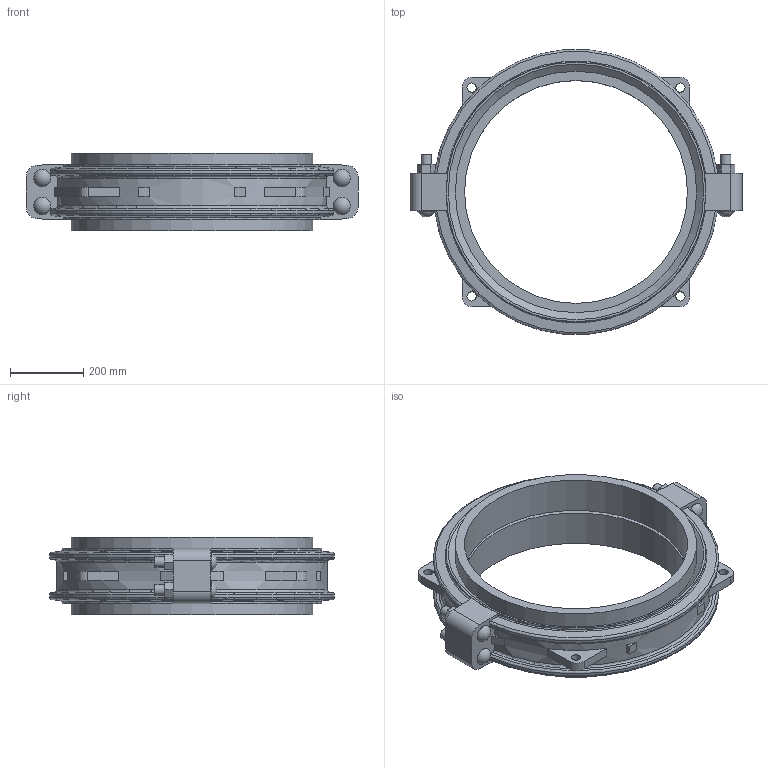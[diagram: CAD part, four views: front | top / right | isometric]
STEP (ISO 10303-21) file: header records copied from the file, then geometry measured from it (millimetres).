
FILE_DESCRIPTION(/* description */ ('VIC COUPLING FLEX STYLE W77 AGS VIC-RING ','CAx-IF Rec.Pracs.---Representation and Presentation of Product Manufacturing Information (PMI)---4.0---2014-10-13'),/* implementation_level */ '2;1');
FILE_NAME(/* name */ 'C:\Users\Vjadhav\AppData\Roaming\Autodesk\ApplicationPlugins\Victaulic.Temp\A52\Victaulic_Vic-Ring_Coupling Flexible_Style W77 (AGR)_26 (650).stp',/* time_stamp */ '2021-12-20T11:05:16+06:00',/* author */ ('Vjadhav'),/* organization */ ('Victaulic'),/* preprocessor_version */ 'ST-DEVELOPER v17.2',/* originating_system */ 'Autodesk Inventor 2019',/* authorisation */ '');
FILE_SCHEMA (('AP242_MANAGED_MODEL_BASED_3D_ENGINEERING_MIM_LF { 1 0 10303 442 1 1 4 }'));
Length unit declared in the file: inch
Products named in the file (3): W77 VR-26.0; W77 VR-26.0_1; W77 VR-26.0_2
Assembly tree (3 placements, depth 2):
  W77 VR-26.0
    W77 VR-26.0_1
    W77 VR-26.0_2  x2
Bounding box: 908.05 x 778.25 x 211.84 mm (x, y, z)
Volume: 27674197.1 mm3; surface area: 2227729.7 mm2
Topology: 3 solids, 7 shells, 187 faces, 491 edges, 340 vertices
Faces by surface type: plane 110, cylinder 47, torus 16, cone 10, sphere 4
Full cylindrical faces by diameter (mm): 25.4 x4, 28.575 x8, 47.625 x4, 609.6 x2, 641.35 x1, 660.4 x4, 710.184 x2
Entity records: 6491 total; most frequent: CARTESIAN_POINT 1514, DIRECTION 987, ORIENTED_EDGE 962, EDGE_CURVE 481, AXIS2_PLACEMENT_3D 365, VERTEX_POINT 332, LINE 257, VECTOR 257
